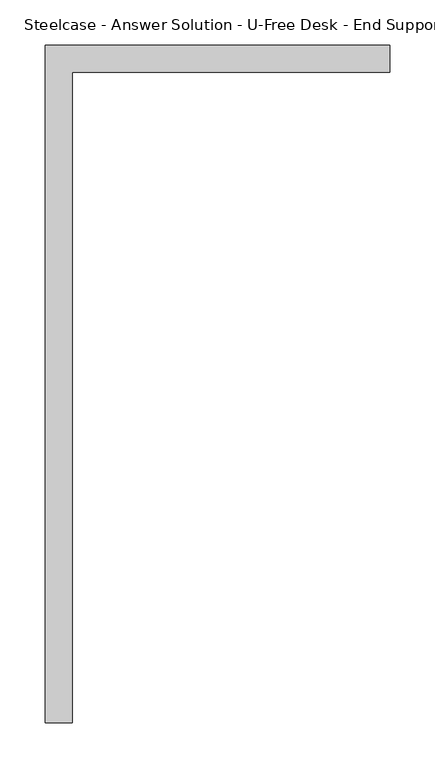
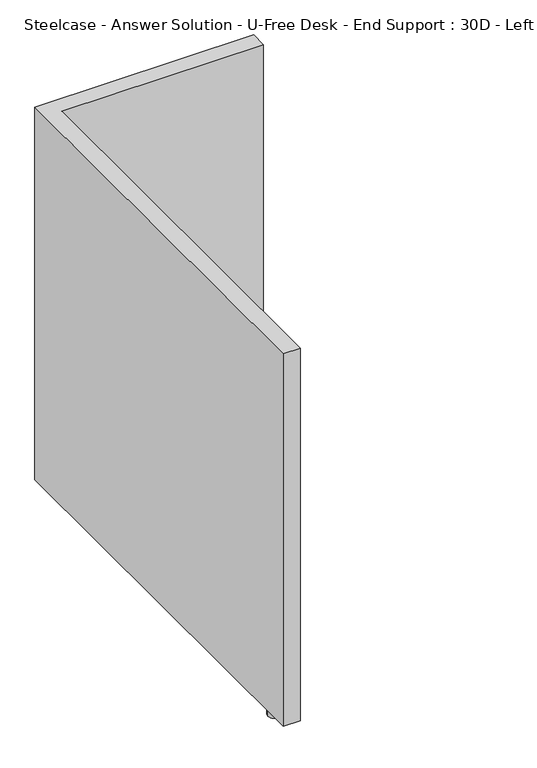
"""IFC4 building model written with IfcOpenShell, lengths in millimetres: furniture geometry, Steelcase - Answer Solution - U-Free Desk - End Support : 30D - Left."""

from ifc_helpers import new_model, si_unit, point, frame, frame_2d, origin, origin_with_axes, place, context, project, spatial, polyline, circle_curve, trimmed, segment, composite_curve, outline, extrude, source, transform, mapped, element, save


def steelcase_answer_solution_u_free_desk_end_support_30d_left_8c8419ba(model_context):
    return source(origin(), model_context, "Body", "SweptSolid", [
        extrude(outline(composite_curve([segment(trimmed(circle_curve(frame_2d((18.1392399, -700.8767813)), 12.7), [point((5.4392399, -700.8767813))], [point((30.8392399, -700.8767813))], False, "CARTESIAN"), True, "CONTINUOUS"), segment(trimmed(circle_curve(frame_2d((18.1392399, -700.8767813)), 12.7), [point((30.8392399, -700.8767813))], [point((5.4392399, -700.8767813))], False, "CARTESIAN"), True, "CONTINUOUS")], self_intersect=False)), origin_with_axes(), (0.0, 0.0, 1.0), 12.7000004),
        extrude(outline(polyline([(384.1009381, -2.0011718), (384.1009381, -31.6936406), (32.8951368, -31.6936406), (32.8951368, -751.3011718), (3.1009381, -751.3011718), (3.1009381, -2.0011718), (384.1009381, -2.0011718)])), frame((0.0, 0.0, 12.7000004), z_axis=(0.0, 0.0, 1.0), x_axis=(1.0, 0.0, 0.0)), (0.0, 0.0, 1.0), 685.8),
    ])


if __name__ == "__main__":
    model = new_model("IFC4")
    model_context = context("Model", 3, world=origin())
    ifc_project = project(units=[si_unit("LENGTHUNIT", "METRE", prefix="MILLI")], contexts=[model_context])
    site = spatial("IfcSite", under=ifc_project)
    building = spatial("IfcBuilding", under=site)
    placement = place(None, origin())
    steelcase_answer_solution_u_free_desk_end_support_30d_left_shape = steelcase_answer_solution_u_free_desk_end_support_30d_left_8c8419ba(model_context)
    element("IfcFurniture", 1, ObjectType="Steelcase - Answer Solution - U-Free Desk - End Support : 30D - Left", at=placement, inside=building, context=model_context, shape_type="MappedRepresentation", body=[
        mapped(steelcase_answer_solution_u_free_desk_end_support_30d_left_shape, transform((0.0, 0.0, 0.0), x_axis=(1.0, 0.0, 0.0), y_axis=(0.0, 1.0, 0.0), z_axis=(0.0, 0.0, 1.0))),
    ])
    save(model, "model.ifc")
